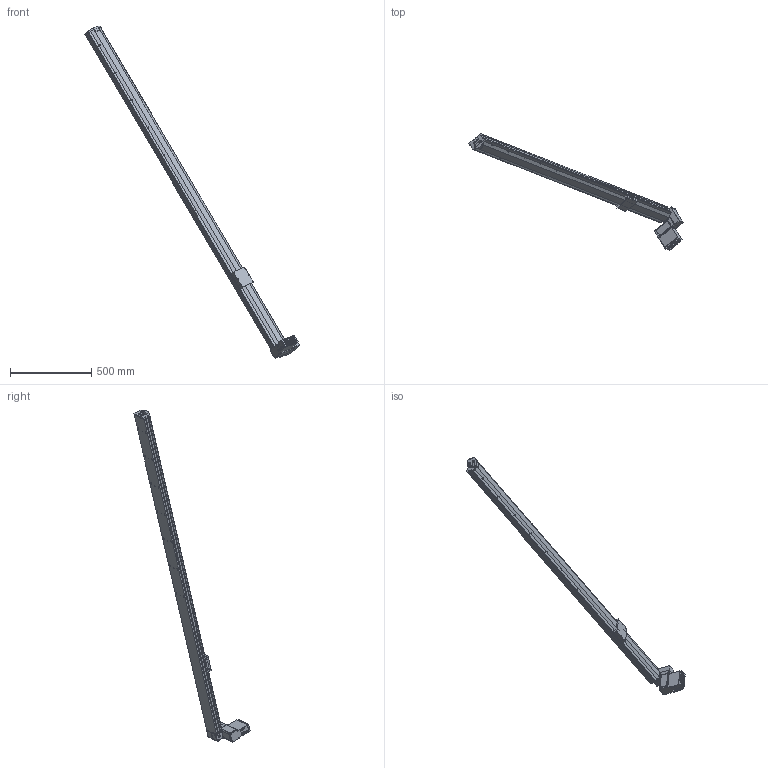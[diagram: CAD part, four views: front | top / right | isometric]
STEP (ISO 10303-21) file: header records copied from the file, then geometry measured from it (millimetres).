
FILE_DESCRIPTION (( 'STEP AP203' ), '1' );
FILE_NAME ('S10 CBH RT S2300.STEP', '2012-10-01T11:55:49', ( '' ), ( '' ), 'SwSTEP 2.0', 'SolidWorks 2010', '' );
FILE_SCHEMA (( 'CONFIG_CONTROL_DESIGN' ));
Length unit declared in the file: millimetre
Products named in the file (9): moteur M3_1; plaque de bout; embout; moteur M3; S10 CBH RT S2300; palette tbh; Plaque racord_; MOTEUR GMI 61 ; axe 2300
Assembly tree (7 placements, depth 3):
  moteur M3
  S10 CBH RT S2300
    MOTEUR GMI 61 
    plaque de bout
      moteur M3_1
      Plaque racord_
    palette tbh
    embout
    axe 2300
Bounding box: 1323.05 x 716.59 x 2048.19 mm (x, y, z)
Volume: 12901611.7 mm3; surface area: 1239910.3 mm2
Topology: 5 solids, 18 shells, 783 faces, 2042 edges, 1284 vertices
Faces by surface type: plane 381, cylinder 293, cone 74, torus 23, bspline 8, sphere 4
Entity records: 27153 total; most frequent: CARTESIAN_POINT 6971, DIRECTION 4077, ORIENTED_EDGE 3836, EDGE_CURVE 1968, AXIS2_PLACEMENT_3D 1410, VERTEX_POINT 1284, VECTOR 1257, LINE 1257
